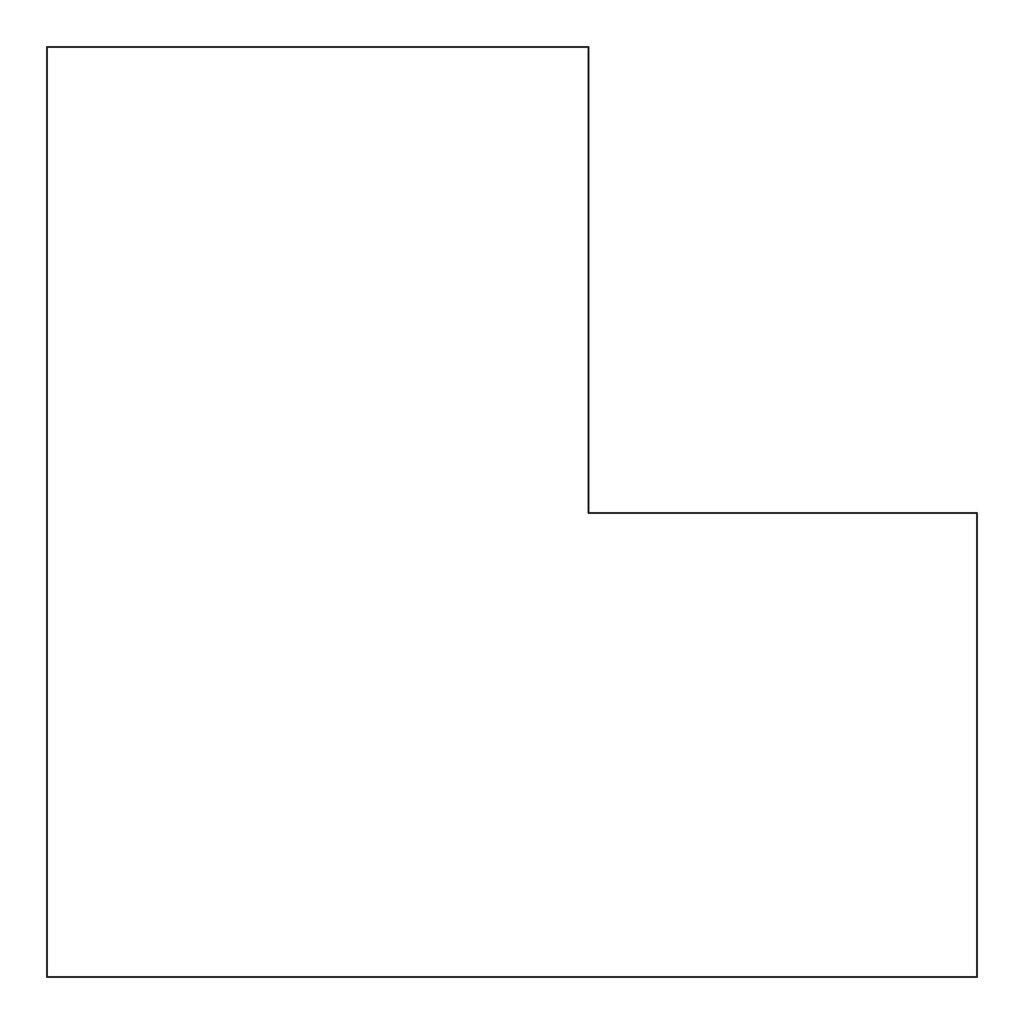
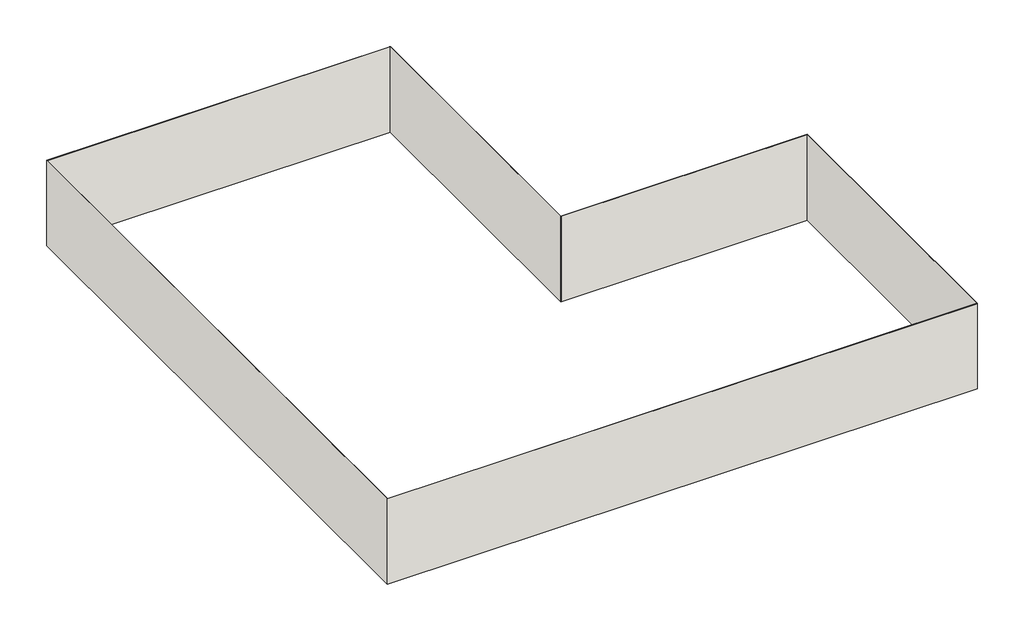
# One storey: 6 walls.
"""IFC4 building model written with IfcOpenShell, lengths in millimetres."""

from ifc_helpers import new_model, si_unit, origin, place, context, project, spatial, faceted_brep, element, save

model = new_model("IFC4")

# Units and contexts
model_context = context("Model", 3, world=origin())
ifc_project = project(units=[si_unit("LENGTHUNIT", "METRE", prefix="MILLI")], contexts=[model_context])

# Site, building, storey
site = spatial("IfcSite", under=ifc_project)
building = spatial("IfcBuilding", under=site)
storey = spatial("IfcBuildingStorey", under=building, Name="- 2 - Sotto platea", Elevation=-3000.0)

# Walls
placement = place(None, origin())
element("IfcWall", 1, ObjectType="Mortar", at=placement, inside=storey, context=model_context, shape_type="Brep", body=[
    faceted_brep([(1762.3707384, -15630.7761472, -3000.0), (1747.3707384, -15630.7761472, -3000.0), (-17842.5089367, -15630.7761472, -3000.0), (-17857.5089367, -15630.7761472, -3000.0), (-17857.5089367, -15630.7761472, 0.0), (-17842.5089367, -15630.7761472, 0.0), (1747.3707384, -15630.7761472, 0.0), (1762.3707384, -15630.7761472, 0.0), (1762.3707384, -15645.7761472, -3000.0), (1762.3707384, -15645.7761472, 0.0), (-17857.5089367, -15645.7761472, 0.0), (-17857.5089367, -15645.7761472, -3000.0)], [[[0, 1, 2, 3, 4, 5, 6, 7]], [[8, 9, 10, 11]], [[3, 2, 1, 0, 8, 11]], [[7, 6, 5, 4, 10, 9]], [[4, 3, 11, 10]], [[0, 7, 9, 8]]]),
])
element("IfcWall", 2, ObjectType="Mortar", at=placement, inside=storey, context=model_context, shape_type="Brep", body=[
    faceted_brep([(-17842.5089367, -15630.7761472, -3000.0), (-17842.5089367, 3963.003934, -3000.0), (-17842.5089367, 3978.003934, -3000.0), (-17842.5089367, 3978.003934, 0.0), (-17842.5089367, 3963.003934, 0.0), (-17842.5089367, -15630.7761472, 0.0), (-17857.5089367, -15630.7761472, -3000.0), (-17857.5089367, -15630.7761472, 0.0), (-17857.5089367, 3978.003934, 0.0), (-17857.5089367, 3978.003934, -3000.0)], [[[0, 1, 2, 3, 4, 5]], [[6, 7, 8, 9]], [[2, 1, 0, 6, 9]], [[5, 4, 3, 8, 7]], [[0, 5, 7, 6]], [[3, 2, 9, 8]]]),
])
element("IfcWall", 3, ObjectType="Mortar", at=placement, inside=storey, context=model_context, shape_type="Brep", body=[
    faceted_brep([(-17842.5089367, 3963.003934, -3000.0), (-6441.5891533, 3963.003934, -3000.0), (-6426.5891533, 3963.003934, -3000.0), (-6426.5891533, 3963.003934, 0.0), (-6441.5891533, 3963.003934, 0.0), (-17842.5089367, 3963.003934, 0.0), (-17842.5089367, 3978.003934, -3000.0), (-17842.5089367, 3978.003934, 0.0), (-6426.5891533, 3978.003934, 0.0), (-6426.5891533, 3978.003934, -3000.0)], [[[0, 1, 2, 3, 4, 5]], [[6, 7, 8, 9]], [[2, 1, 0, 6, 9]], [[5, 4, 3, 8, 7]], [[0, 5, 7, 6]], [[3, 2, 9, 8]]]),
])
element("IfcWall", 4, ObjectType="Mortar", at=placement, inside=storey, context=model_context, shape_type="Brep", body=[
    faceted_brep([(-6426.5891533, -5860.9559577, -3000.0), (-6426.5891533, -5845.9559577, -3000.0), (-6426.5891533, 3963.003934, -3000.0), (-6426.5891533, 3963.003934, 0.0), (-6426.5891533, -5845.9559577, 0.0), (-6426.5891533, -5860.9559577, 0.0), (-6441.5891533, -5860.9559577, -3000.0), (-6441.5891533, -5860.9559577, 0.0), (-6441.5891533, 3963.003934, 0.0), (-6441.5891533, 3963.003934, -3000.0)], [[[0, 1, 2, 3, 4, 5]], [[6, 7, 8, 9]], [[2, 1, 0, 6, 9]], [[5, 4, 3, 8, 7]], [[3, 2, 9, 8]], [[0, 5, 7, 6]]]),
])
element("IfcWall", 5, ObjectType="Mortar", at=placement, inside=storey, context=model_context, shape_type="Brep", body=[
    faceted_brep([(-6426.5891533, -5860.9559577, -3000.0), (1747.3707384, -5860.9559577, -3000.0), (1762.3707384, -5860.9559577, -3000.0), (1762.3707384, -5860.9559577, 0.0), (1747.3707384, -5860.9559577, 0.0), (-6426.5891533, -5860.9559577, 0.0), (-6426.5891533, -5845.9559577, -3000.0), (-6426.5891533, -5845.9559577, 0.0), (1762.3707384, -5845.9559577, 0.0), (1762.3707384, -5845.9559577, -3000.0)], [[[0, 1, 2, 3, 4, 5]], [[6, 7, 8, 9]], [[2, 1, 0, 6, 9]], [[5, 4, 3, 8, 7]], [[0, 5, 7, 6]], [[3, 2, 9, 8]]]),
])
element("IfcWall", 6, ObjectType="Mortar", at=placement, inside=storey, context=model_context, shape_type="Brep", body=[
    faceted_brep([(1762.3707384, -15630.7761472, -3000.0), (1762.3707384, -5860.9559577, -3000.0), (1762.3707384, -5860.9559577, 0.0), (1762.3707384, -15630.7761472, 0.0), (1747.3707384, -15630.7761472, -3000.0), (1747.3707384, -15630.7761472, -2800.0), (1747.3707384, -15630.7761472, -2780.0), (1747.3707384, -15630.7761472, 0.0), (1747.3707384, -5860.9559577, 0.0), (1747.3707384, -5860.9559577, -3000.0)], [[[0, 1, 2, 3]], [[4, 5, 6, 7, 8, 9]], [[1, 0, 4, 9]], [[3, 2, 8, 7]], [[2, 1, 9, 8]], [[0, 3, 7, 6, 5, 4]]]),
])

save(model, "model.ifc")
